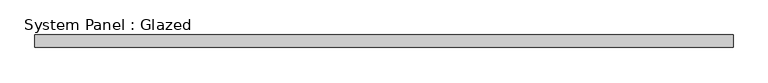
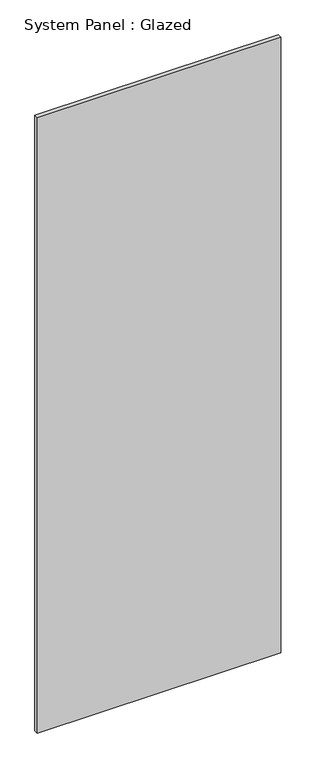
"""IFC4 building model written with IfcOpenShell, lengths in millimetres: plate geometry, System Panel : Glazed."""

from ifc_helpers import new_model, si_unit, origin, origin_with_axes, place, context, project, spatial, polyline, outline, extrude, source, transform, mapped, element, save


def system_panel_glazed_bda8db77(model_context):
    return source(origin(), model_context, "Body", "SweptSolid", [
        extrude(outline(polyline([(701.1589132, -49.5), (-701.1589132, -49.5), (-701.1589132, -24.5), (701.1589132, -24.5), (701.1589132, -49.5)])), origin_with_axes(), (0.0, 0.0, 1.0), 3750.0),
    ])


if __name__ == "__main__":
    model = new_model("IFC4")
    model_context = context("Model", 3, world=origin())
    ifc_project = project(units=[si_unit("LENGTHUNIT", "METRE", prefix="MILLI")], contexts=[model_context])
    site = spatial("IfcSite", under=ifc_project)
    building = spatial("IfcBuilding", under=site)
    placement = place(None, origin())
    system_panel_glazed_shape = system_panel_glazed_bda8db77(model_context)
    element("IfcPlate", 1, ObjectType="System Panel : Glazed", at=placement, inside=building, context=model_context, shape_type="MappedRepresentation", body=[
        mapped(system_panel_glazed_shape, transform((0.0, 0.0, 0.0), x_axis=(1.0, 0.0, 0.0), y_axis=(0.0, 1.0, 0.0), z_axis=(0.0, 0.0, 1.0))),
    ])
    save(model, "model.ifc")
